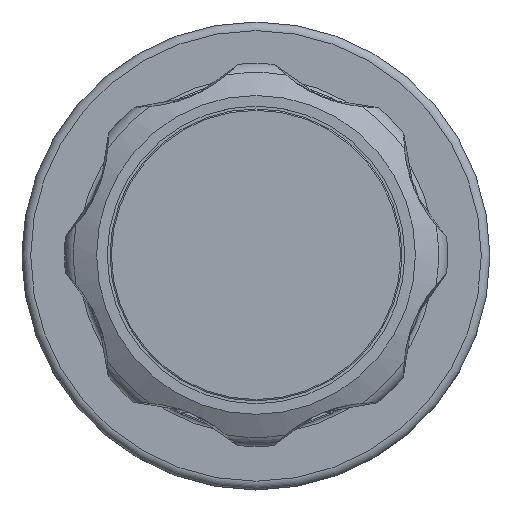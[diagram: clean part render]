
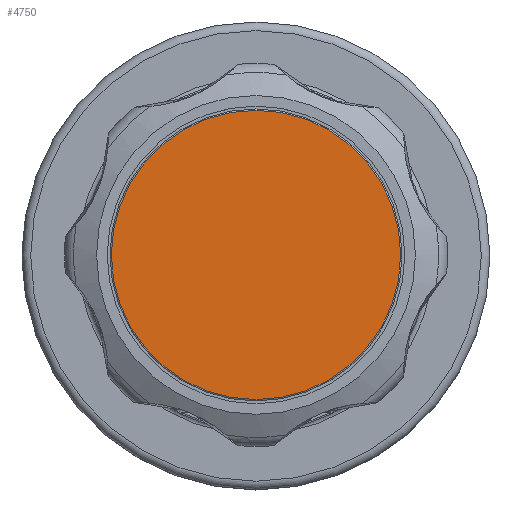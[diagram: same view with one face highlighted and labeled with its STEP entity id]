
A CAD part, top view. The second image highlights one B-rep face of the part: STEP entity #4750.
In plain terms, the highlighted planar face has unit normal (0, 0, 1) as drawn and (0, 1, 0) by its records, which use the part's own axes.
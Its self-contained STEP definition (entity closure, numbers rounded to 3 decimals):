
#178=PLANE('',#5348);
#731=FACE_OUTER_BOUND('',#1050,.T.);
#1050=EDGE_LOOP('',(#4233));
#1824=CIRCLE('',#5349,21.2);
#2269=VERTEX_POINT('',#17527);
#2934=EDGE_CURVE('',#2269,#2269,#1824,.T.);
#4233=ORIENTED_EDGE('',*,*,#2934,.T.);
#4750=ADVANCED_FACE('',(#731),#178,.T.);
#5348=AXIS2_PLACEMENT_3D('',#17526,#6616,#6617);
#5349=AXIS2_PLACEMENT_3D('',#17528,#6618,#6619);
#6616=DIRECTION('center_axis',(0.,1.,0.));
#6617=DIRECTION('ref_axis',(0.,0.,1.));
#6618=DIRECTION('center_axis',(0.,1.,0.));
#6619=DIRECTION('ref_axis',(0.,0.,1.));
#17526=CARTESIAN_POINT('Origin',(-21.4,11.4,0.));
#17527=CARTESIAN_POINT('',(0.,11.4,-21.2));
#17528=CARTESIAN_POINT('Origin',(0.,11.4,0.));
